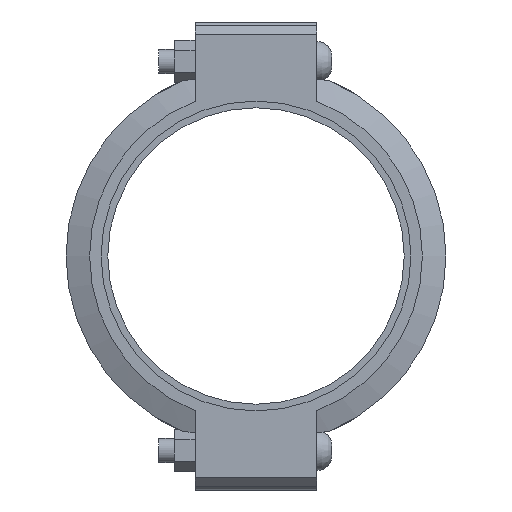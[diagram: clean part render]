
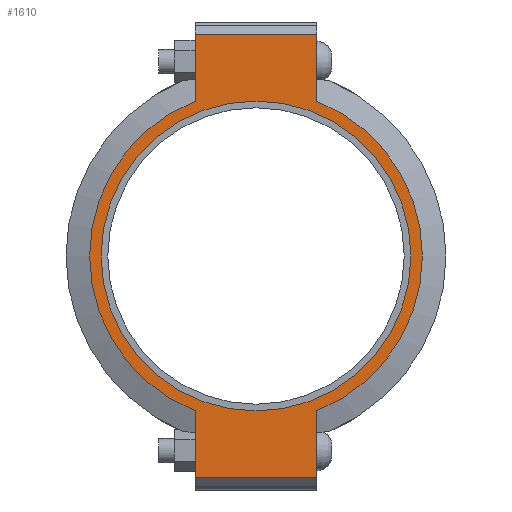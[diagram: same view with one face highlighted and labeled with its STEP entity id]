
A CAD part, left-side view. The second image highlights one B-rep face of the part: STEP entity #1610.
In plain terms, the highlighted planar face has unit normal (-1, 0, 0) as drawn and (0, 0, 1) by its records, which use the part's own axes.
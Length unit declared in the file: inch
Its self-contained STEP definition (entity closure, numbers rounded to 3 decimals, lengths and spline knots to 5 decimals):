
#180=LINE('',#2741,#269);
#191=LINE('',#2792,#280);
#197=LINE('',#2818,#286);
#199=LINE('',#2821,#288);
#200=LINE('',#2826,#289);
#201=LINE('',#2827,#290);
#269=VECTOR('',#2229,0.3937);
#280=VECTOR('',#2260,0.3937);
#286=VECTOR('',#2278,0.3937);
#288=VECTOR('',#2282,0.3937);
#289=VECTOR('',#2287,0.3937);
#290=VECTOR('',#2288,0.3937);
#352=FACE_BOUND('',#529,.T.);
#420=FACE_OUTER_BOUND('',#528,.T.);
#528=EDGE_LOOP('',(#1304,#1305,#1306,#1307,#1308,#1309,#1310,#1311));
#529=EDGE_LOOP('',(#1312));
#611=CIRCLE('',#1801,6.375);
#635=CIRCLE('',#1853,6.84375);
#636=CIRCLE('',#1854,6.84375);
#707=VERTEX_POINT('',#2567);
#748=VERTEX_POINT('',#2738);
#749=VERTEX_POINT('',#2740);
#766=VERTEX_POINT('',#2787);
#767=VERTEX_POINT('',#2791);
#774=VERTEX_POINT('',#2813);
#775=VERTEX_POINT('',#2817);
#776=VERTEX_POINT('',#2823);
#777=VERTEX_POINT('',#2825);
#871=EDGE_CURVE('',#707,#707,#611,.T.);
#928=EDGE_CURVE('',#749,#748,#180,.T.);
#949=EDGE_CURVE('',#767,#766,#191,.T.);
#960=EDGE_CURVE('',#775,#774,#197,.T.);
#962=EDGE_CURVE('',#775,#748,#199,.T.);
#963=EDGE_CURVE('',#774,#776,#635,.T.);
#964=EDGE_CURVE('',#776,#777,#200,.T.);
#965=EDGE_CURVE('',#767,#777,#201,.T.);
#966=EDGE_CURVE('',#766,#749,#636,.T.);
#1304=ORIENTED_EDGE('',*,*,#962,.F.);
#1305=ORIENTED_EDGE('',*,*,#960,.T.);
#1306=ORIENTED_EDGE('',*,*,#963,.T.);
#1307=ORIENTED_EDGE('',*,*,#964,.T.);
#1308=ORIENTED_EDGE('',*,*,#965,.F.);
#1309=ORIENTED_EDGE('',*,*,#949,.T.);
#1310=ORIENTED_EDGE('',*,*,#966,.T.);
#1311=ORIENTED_EDGE('',*,*,#928,.T.);
#1312=ORIENTED_EDGE('',*,*,#871,.T.);
#1449=PLANE('',#1852);
#1610=ADVANCED_FACE('',(#420,#352),#1449,.T.);
#1801=AXIS2_PLACEMENT_3D('',#2569,#2119,#2120);
#1852=AXIS2_PLACEMENT_3D('',#2822,#2283,#2284);
#1853=AXIS2_PLACEMENT_3D('',#2824,#2285,#2286);
#1854=AXIS2_PLACEMENT_3D('',#2828,#2289,#2290);
#2119=DIRECTION('center_axis',(0.,0.,-1.));
#2120=DIRECTION('ref_axis',(-1.,0.,0.));
#2229=DIRECTION('',(-1.,0.,0.));
#2260=DIRECTION('',(-1.,0.,0.));
#2278=DIRECTION('',(1.,0.,0.));
#2282=DIRECTION('',(0.,1.,0.));
#2283=DIRECTION('center_axis',(0.,0.,1.));
#2284=DIRECTION('ref_axis',(1.,0.,0.));
#2285=DIRECTION('center_axis',(0.,0.,1.));
#2286=DIRECTION('ref_axis',(-1.,0.,0.));
#2287=DIRECTION('',(1.,0.,0.));
#2288=DIRECTION('',(0.,-1.,0.));
#2289=DIRECTION('center_axis',(0.,0.,1.));
#2290=DIRECTION('ref_axis',(-1.,0.,0.));
#2567=CARTESIAN_POINT('',(6.375,0.,1.315));
#2569=CARTESIAN_POINT('Origin',(0.,0.,1.315));
#2738=CARTESIAN_POINT('',(-9.125,2.5,1.315));
#2740=CARTESIAN_POINT('',(-6.37079,2.5,1.315));
#2741=CARTESIAN_POINT('',(9.625,2.5,1.315));
#2787=CARTESIAN_POINT('',(6.37079,2.5,1.315));
#2791=CARTESIAN_POINT('',(9.125,2.5,1.315));
#2792=CARTESIAN_POINT('',(9.625,2.5,1.315));
#2813=CARTESIAN_POINT('',(-6.37079,-2.5,1.315));
#2817=CARTESIAN_POINT('',(-9.125,-2.5,1.315));
#2818=CARTESIAN_POINT('',(-9.625,-2.5,1.315));
#2821=CARTESIAN_POINT('',(-9.125,1.25,1.315));
#2822=CARTESIAN_POINT('Origin',(0.,0.,
1.315));
#2823=CARTESIAN_POINT('',(6.37079,-2.5,1.315));
#2824=CARTESIAN_POINT('Origin',(0.,0.,1.315));
#2825=CARTESIAN_POINT('',(9.125,-2.5,1.315));
#2826=CARTESIAN_POINT('',(-9.625,-2.5,1.315));
#2827=CARTESIAN_POINT('',(9.125,-1.25,1.315));
#2828=CARTESIAN_POINT('Origin',(0.,0.,1.315));
